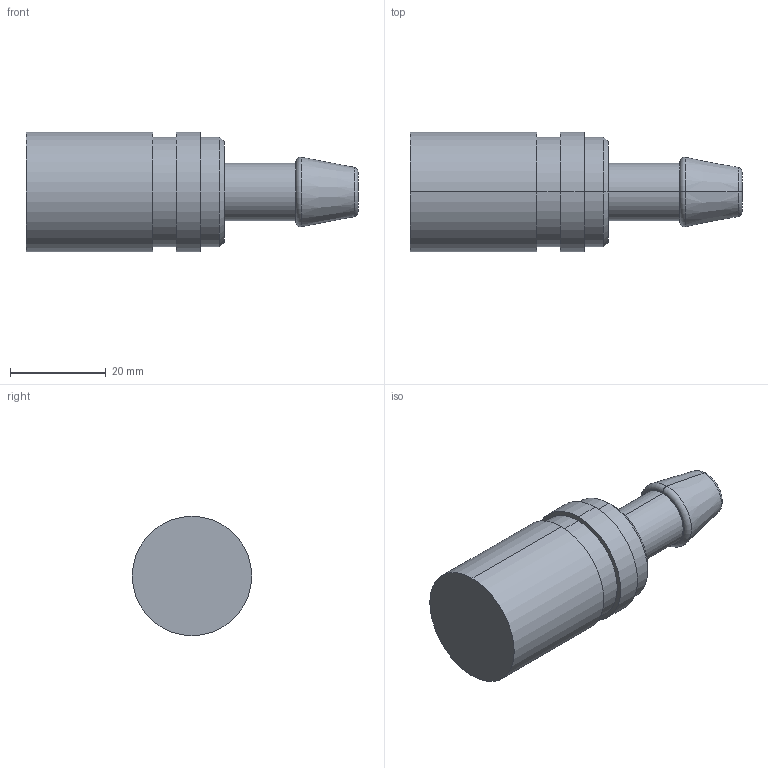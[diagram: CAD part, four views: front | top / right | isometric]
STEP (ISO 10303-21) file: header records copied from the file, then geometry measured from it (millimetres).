
FILE_DESCRIPTION (( 'STEP AP214' ), '1' );
FILE_NAME ('BR601.09 HGB 12.STEP', '2020-12-02T13:58:44', ( '' ), ( '' ), 'SwSTEP 2.0', 'SolidWorks 2018', '' );
FILE_SCHEMA (( 'AUTOMOTIVE_DESIGN' ));
Length unit declared in the file: millimetre
Products named in the file (1): BR601.09 HGB 12
Bounding box: 69.5 x 25 x 25 mm (x, y, z)
Volume: 22876.3 mm3; surface area: 5359.5 mm2
Topology: 1 solids, 1 shells, 25 faces, 48 edges, 30 vertices
Faces by surface type: cylinder 10, plane 7, cone 4, torus 4
Entity records: 682 total; most frequent: DIRECTION 134, CARTESIAN_POINT 104, ORIENTED_EDGE 96, AXIS2_PLACEMENT_3D 60, EDGE_CURVE 48, CIRCLE 34, VERTEX_POINT 30, EDGE_LOOP 30
